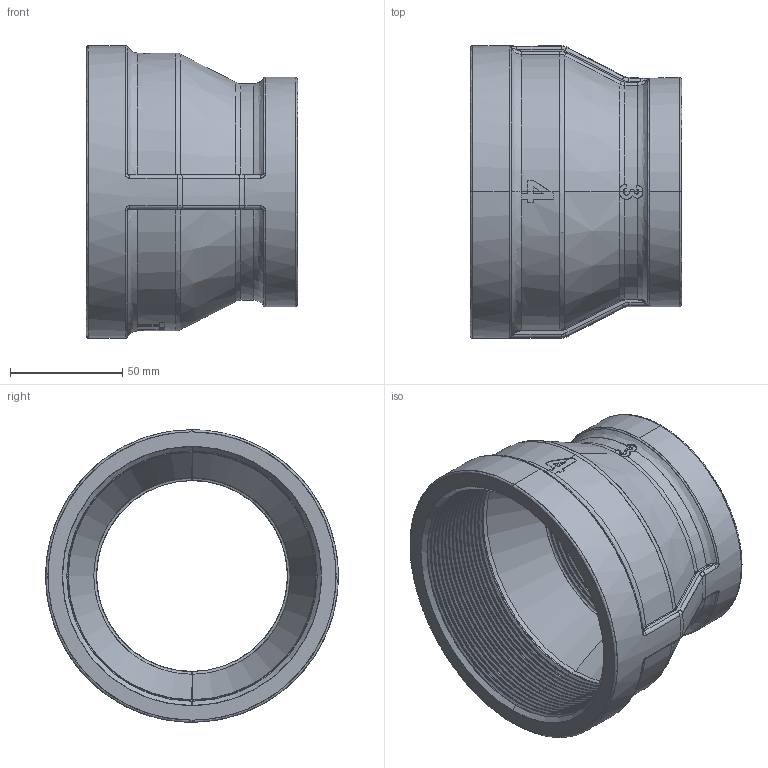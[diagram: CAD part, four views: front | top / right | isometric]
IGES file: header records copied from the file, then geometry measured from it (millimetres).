
Start section: SolidWorks IGES file using analytic representation for surfaces
Global section: file name: C:\Users\Joel Rosa\Desktop\Tubulação\12-32-OK\12-32-060.IGS; native system: SolidWorks 2011; preprocessor: SolidWorks 2011; author: Joel Rosa; date: 121208.233859; units: millimetre
Bounding box: 94 x 130.2 x 130.2 mm (x, y, z)
Surface area: 86196.9 mm2 (no closed solid volume)
Topology: 0 solids, 0 shells, 522 faces, 4058 edges, 4058 vertices
Faces by surface type: bspline 346, revolution 176
